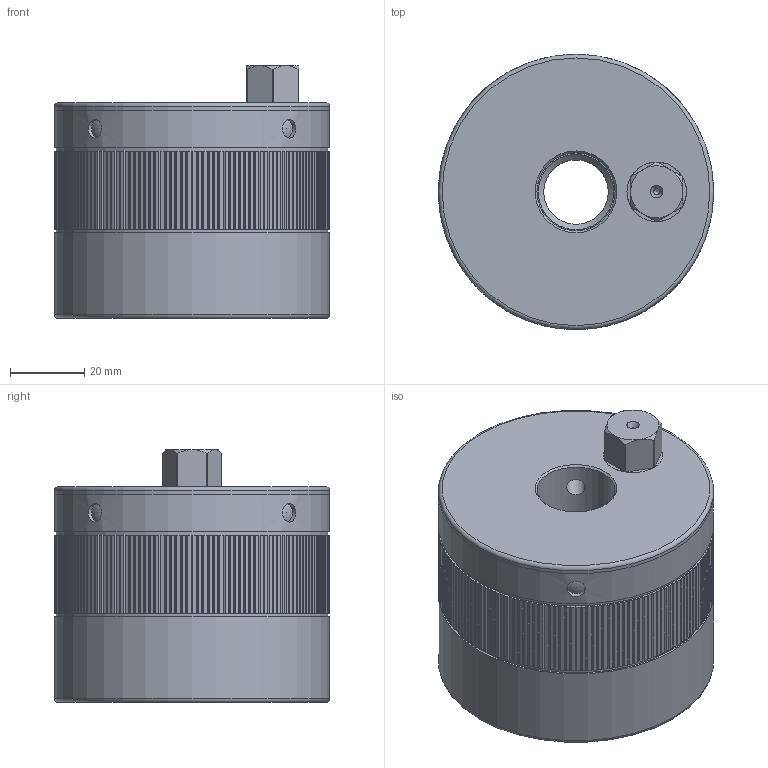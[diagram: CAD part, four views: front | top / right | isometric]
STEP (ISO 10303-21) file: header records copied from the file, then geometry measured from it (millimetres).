
FILE_DESCRIPTION(/* description */ ('Unknown','CAx-IF Rec.Pracs.---Representation and Presentation of Product Manufacturing Information (PMI)---4.0---2014-10-13','CAx-IF Rec.Pracs.---3D Tessellated Geometry---0.4---2014-09-14','2;1'),/* implementation_level */ '2;1');
FILE_NAME(/* name */ 'MDA 60_SW14_M20',/* time_stamp */ '2023-09-14T12:55:04+02:00',/* author */ ('Unknown'),/* organization */ ('Unknown'),/* preprocessor_version */ 'ST-DEVELOPER v18.102',/* originating_system */ 'Solid Edge',/* authorisation */ 'Unknown');
FILE_SCHEMA (('AP242_MANAGED_MODEL_BASED_3D_ENGINEERING_MIM_LF { 1 0 10303 442 1 1 4 }'));
Length unit declared in the file: millimetre
Products named in the file (7): 05933045; 43733042; kt101323; 46331263; 42231968; KT100075; 46432273
Assembly tree (9 placements, depth 2):
  05933045
    43733042
    kt101323
    46331263
    42231968
    KT100075  x4
    46432273
Bounding box: 74 x 74 x 68 mm (x, y, z)
Volume: 220069.7 mm3; surface area: 76661.7 mm2
Topology: 9 solids, 9 shells, 607 faces, 1730 edges, 1144 vertices
Faces by surface type: plane 354, cylinder 199, cone 31, torus 9, sphere 8, bspline 6
Full cylindrical faces by diameter (mm): 1.6 x2, 5 x12, 16 x2, 16.4 x1, 17.294 x1, 21 x1, 38 x3, 56.2 x1, 60.7 x1, 62 x1, 66.7 x1, 66.9 x1, 67 x3, 73 x2, 74 x3
Entity records: 19749 total; most frequent: CARTESIAN_POINT 3925, ORIENTED_EDGE 3206, DIRECTION 3182, EDGE_CURVE 1603, LINE 1142, VECTOR 1142, VERTEX_POINT 1103, AXIS2_PLACEMENT_3D 1020
